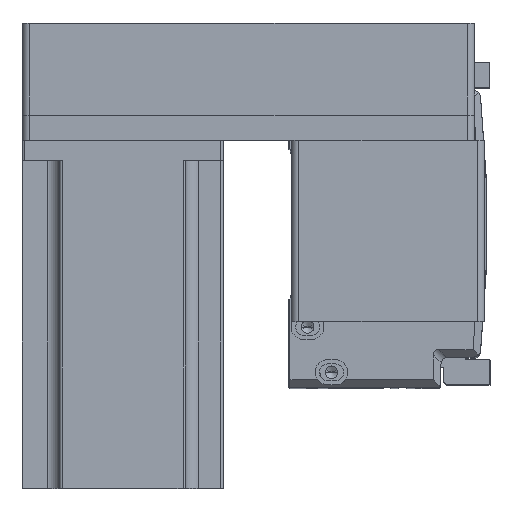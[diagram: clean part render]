
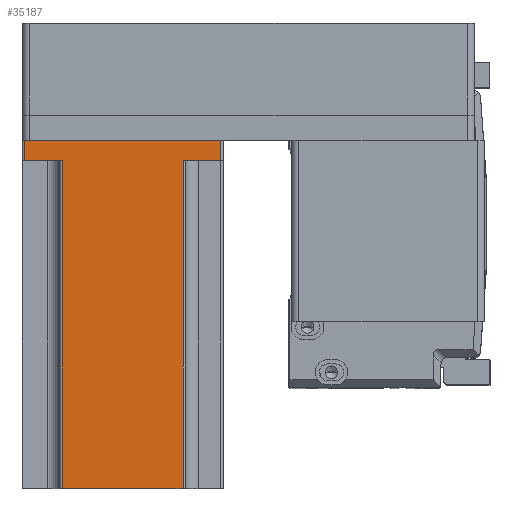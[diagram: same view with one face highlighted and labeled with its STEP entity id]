
A CAD part, top view. The second image highlights one B-rep face of the part: STEP entity #35187.
In plain terms, the highlighted planar face has unit normal (0, 0, 1) as drawn and (0, 1, 0) by its records, which use the part's own axes.
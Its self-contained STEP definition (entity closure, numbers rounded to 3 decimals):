
#74 = EDGE_CURVE ( 'NONE', #14852, #20281, #24309, .T. ) ;
#1480 = CARTESIAN_POINT ( 'NONE',  ( 24., 40., 8. ) ) ;
#2401 = VECTOR ( 'NONE', #17793, 1000. ) ;
#2885 = LINE ( 'NONE', #9262, #27141 ) ;
#4403 = EDGE_CURVE ( 'NONE', #41893, #14852, #35412, .T. ) ;
#5166 = CARTESIAN_POINT ( 'NONE',  ( -39., 40., 138.3 ) ) ;
#5908 = DIRECTION ( 'NONE',  ( 0., 0., -1. ) ) ;
#6583 = CARTESIAN_POINT ( 'NONE',  ( 40., 40., 0. ) ) ;
#7783 = CARTESIAN_POINT ( 'NONE',  ( 40., 40., 138.3 ) ) ;
#7928 = EDGE_CURVE ( 'NONE', #42468, #41893, #26865, .T. ) ;
#8479 = ORIENTED_EDGE ( 'NONE', *, *, #28066, .F. ) ;
#9262 = CARTESIAN_POINT ( 'NONE',  ( 24., 40., 138.3 ) ) ;
#11039 = CARTESIAN_POINT ( 'NONE',  ( 39., 40., 0. ) ) ;
#12496 = ORIENTED_EDGE ( 'NONE', *, *, #31015, .F. ) ;
#12775 = CARTESIAN_POINT ( 'NONE',  ( 40., 40., 138.3 ) ) ;
#13187 = CARTESIAN_POINT ( 'NONE',  ( 24., 40., 138.3 ) ) ;
#13290 = LINE ( 'NONE', #6583, #20627 ) ;
#14537 = CARTESIAN_POINT ( 'NONE',  ( 39., 40., 8. ) ) ;
#14852 = VERTEX_POINT ( 'NONE', #38798 ) ;
#15754 = AXIS2_PLACEMENT_3D ( 'NONE', #12775, #35913, #16113 ) ;
#15965 = PLANE ( 'NONE',  #15754 ) ;
#16113 = DIRECTION ( 'NONE',  ( 1., 0., 0. ) ) ;
#17793 = DIRECTION ( 'NONE',  ( 1., 0., 0. ) ) ;
#18243 = VERTEX_POINT ( 'NONE', #11039 ) ;
#18318 = CARTESIAN_POINT ( 'NONE',  ( -24., 40., 138.3 ) ) ;
#18508 = ORIENTED_EDGE ( 'NONE', *, *, #41875, .T. ) ;
#18575 = ORIENTED_EDGE ( 'NONE', *, *, #7928, .T. ) ;
#18782 = CARTESIAN_POINT ( 'NONE',  ( -25., 40., 8. ) ) ;
#19103 = VECTOR ( 'NONE', #24949, 1000. ) ;
#20281 = VERTEX_POINT ( 'NONE', #18318 ) ;
#20627 = VECTOR ( 'NONE', #39481, 1000. ) ;
#20723 = ORIENTED_EDGE ( 'NONE', *, *, #4403, .T. ) ;
#20909 = ORIENTED_EDGE ( 'NONE', *, *, #74, .T. ) ;
#22463 = DIRECTION ( 'NONE',  ( 0., 0., -1. ) ) ;
#23280 = VECTOR ( 'NONE', #32824, 1000. ) ;
#23429 = VECTOR ( 'NONE', #40819, 1000. ) ;
#24309 = LINE ( 'NONE', #28644, #23280 ) ;
#24458 = LINE ( 'NONE', #7783, #23429 ) ;
#24949 = DIRECTION ( 'NONE',  ( 0., 0., 1. ) ) ;
#25971 = VERTEX_POINT ( 'NONE', #1480 ) ;
#26800 = EDGE_CURVE ( 'NONE', #18243, #42468, #13290, .T. ) ;
#26827 = CARTESIAN_POINT ( 'NONE',  ( 25., 40., 8. ) ) ;
#26865 = LINE ( 'NONE', #5166, #19103 ) ;
#27141 = VECTOR ( 'NONE', #22463, 1000. ) ;
#28066 = EDGE_CURVE ( 'NONE', #34967, #25971, #38759, .T. ) ;
#28644 = CARTESIAN_POINT ( 'NONE',  ( -24., 40., 138.3 ) ) ;
#30150 = DIRECTION ( 'NONE',  ( -1., 0., 0. ) ) ;
#30209 = EDGE_CURVE ( 'NONE', #33728, #25971, #2885, .T. ) ;
#30337 = ORIENTED_EDGE ( 'NONE', *, *, #26800, .T. ) ;
#31015 = EDGE_CURVE ( 'NONE', #33728, #20281, #24458, .T. ) ;
#31029 = ORIENTED_EDGE ( 'NONE', *, *, #30209, .T. ) ;
#31762 = VECTOR ( 'NONE', #5908, 1000. ) ;
#32824 = DIRECTION ( 'NONE',  ( 0., 0., 1. ) ) ;
#32987 = EDGE_LOOP ( 'NONE', ( #20723, #20909, #12496, #31029, #8479, #18508, #30337, #18575 ) ) ;
#33728 = VERTEX_POINT ( 'NONE', #13187 ) ;
#34967 = VERTEX_POINT ( 'NONE', #14537 ) ;
#35187 = ADVANCED_FACE ( 'NONE', ( #38729 ), #15965, .F. ) ;
#35412 = LINE ( 'NONE', #18782, #2401 ) ;
#35913 = DIRECTION ( 'NONE',  ( 0., -1., 0. ) ) ;
#36176 = CARTESIAN_POINT ( 'NONE',  ( -39., 40., 8. ) ) ;
#37706 = VECTOR ( 'NONE', #30150, 1000. ) ;
#38729 = FACE_OUTER_BOUND ( 'NONE', #32987, .T. ) ;
#38759 = LINE ( 'NONE', #26827, #37706 ) ;
#38788 = CARTESIAN_POINT ( 'NONE',  ( 39., 40., 138.3 ) ) ;
#38798 = CARTESIAN_POINT ( 'NONE',  ( -24., 40., 8. ) ) ;
#39481 = DIRECTION ( 'NONE',  ( -1., 0., 0. ) ) ;
#39734 = CARTESIAN_POINT ( 'NONE',  ( -39., 40., 0. ) ) ;
#40819 = DIRECTION ( 'NONE',  ( -1., 0., 0. ) ) ;
#41558 = LINE ( 'NONE', #38788, #31762 ) ;
#41875 = EDGE_CURVE ( 'NONE', #34967, #18243, #41558, .T. ) ;
#41893 = VERTEX_POINT ( 'NONE', #36176 ) ;
#42468 = VERTEX_POINT ( 'NONE', #39734 ) ;
